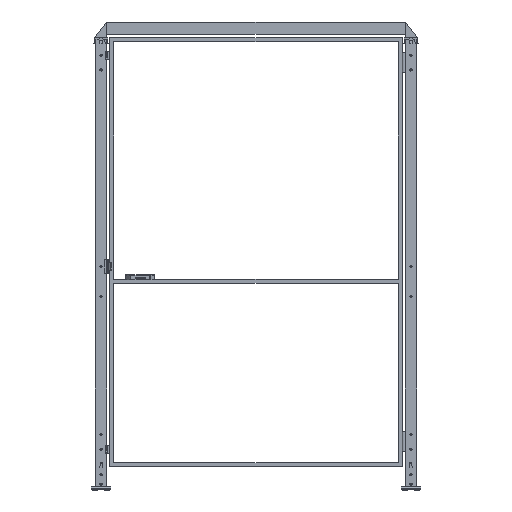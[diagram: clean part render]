
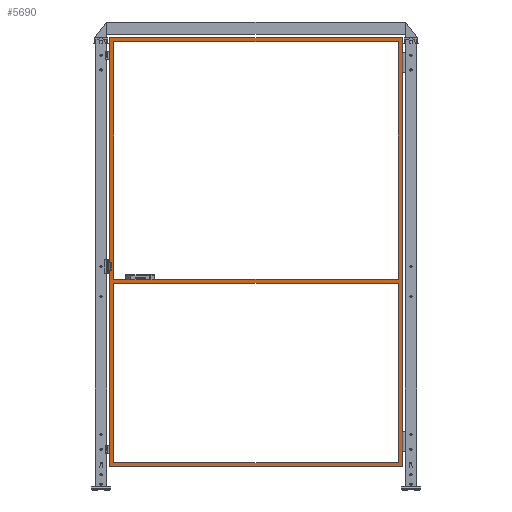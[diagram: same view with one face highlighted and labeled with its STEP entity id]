
A CAD part, top view. The second image highlights one B-rep face of the part: STEP entity #5690.
In plain terms, the highlighted planar face has unit normal (0, 0, 1).
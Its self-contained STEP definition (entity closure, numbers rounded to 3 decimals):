
#5690=ADVANCED_FACE('',(#11648,#11649,#11650),#11651,.F.);
#11648=FACE_BOUND('',#19171,.T.);
#11649=FACE_OUTER_BOUND('',#19172,.T.);
#11650=FACE_BOUND('',#19173,.T.);
#11651=PLANE('',#19174);
#19171=EDGE_LOOP('',(#35965,#35966,#35967,#35968));
#19172=EDGE_LOOP('',(#35969,#35970,#35971,#35972));
#19173=EDGE_LOOP('',(#35973,#35974,#35975,#35976));
#19174=AXIS2_PLACEMENT_3D('',#35977,#35978,#35979);
#35965=ORIENTED_EDGE('',*,*,#42847,.F.);
#35966=ORIENTED_EDGE('',*,*,#42853,.T.);
#35967=ORIENTED_EDGE('',*,*,#42875,.T.);
#35968=ORIENTED_EDGE('',*,*,#42880,.F.);
#35969=ORIENTED_EDGE('',*,*,#42891,.F.);
#35970=ORIENTED_EDGE('',*,*,#42885,.F.);
#35971=ORIENTED_EDGE('',*,*,#42855,.F.);
#35972=ORIENTED_EDGE('',*,*,#42889,.F.);
#35973=ORIENTED_EDGE('',*,*,#42877,.F.);
#35974=ORIENTED_EDGE('',*,*,#42872,.F.);
#35975=ORIENTED_EDGE('',*,*,#42883,.T.);
#35976=ORIENTED_EDGE('',*,*,#42892,.T.);
#35977=CARTESIAN_POINT('',(765.0,130.0,10.0));
#35978=DIRECTION('',(0.,0.0,-1.0));
#35979=DIRECTION('',(-1.0,0.0,0.));
#42847=EDGE_CURVE('',#52941,#52944,#52945,.T.);
#42853=EDGE_CURVE('',#52941,#52952,#52954,.T.);
#42855=EDGE_CURVE('',#52956,#52957,#52958,.T.);
#42872=EDGE_CURVE('',#52984,#52982,#52986,.T.);
#42875=EDGE_CURVE('',#52952,#52988,#52990,.T.);
#42877=EDGE_CURVE('',#52982,#52992,#52993,.T.);
#42880=EDGE_CURVE('',#52944,#52988,#52996,.T.);
#42883=EDGE_CURVE('',#52984,#52998,#53000,.T.);
#42885=EDGE_CURVE('',#52957,#53002,#53003,.T.);
#42889=EDGE_CURVE('',#53006,#52956,#53008,.T.);
#42891=EDGE_CURVE('',#53002,#53006,#53010,.T.);
#42892=EDGE_CURVE('',#52998,#52992,#53011,.T.);
#52941=VERTEX_POINT('',#68243);
#52944=VERTEX_POINT('',#68247);
#52945=LINE('',#68248,#68249);
#52952=VERTEX_POINT('',#68259);
#52954=LINE('',#68262,#68263);
#52956=VERTEX_POINT('',#68265);
#52957=VERTEX_POINT('',#68266);
#52958=LINE('',#68267,#68268);
#52982=VERTEX_POINT('',#68304);
#52984=VERTEX_POINT('',#68307);
#52986=LINE('',#68310,#68311);
#52988=VERTEX_POINT('',#68313);
#52990=LINE('',#68316,#68317);
#52992=VERTEX_POINT('',#68319);
#52993=LINE('',#68320,#68321);
#52996=LINE('',#68325,#68326);
#52998=VERTEX_POINT('',#68328);
#53000=LINE('',#68331,#68332);
#53002=VERTEX_POINT('',#68334);
#53003=LINE('',#68335,#68336);
#53006=VERTEX_POINT('',#68340);
#53008=LINE('',#68343,#68344);
#53010=LINE('',#68346,#68347);
#53011=LINE('',#68348,#68349);
#68243=CARTESIAN_POINT('',(1495.0,2300.0,10.));
#68247=CARTESIAN_POINT('',(35.,2300.0,10.0));
#68248=CARTESIAN_POINT('',(765.0,2300.0,10.0));
#68249=VECTOR('',#75637,1.0);
#68259=CARTESIAN_POINT('',(1495.0,1080.0,10.));
#68262=CARTESIAN_POINT('',(1495.0,1220.0,10.));
#68263=VECTOR('',#75642,1.0);
#68265=CARTESIAN_POINT('',(15.0,120.0,10.0));
#68266=CARTESIAN_POINT('',(15.,2320.0,10.0));
#68267=CARTESIAN_POINT('',(15.0,130.0,10.0));
#68268=VECTOR('',#75643,1.0);
#68304=CARTESIAN_POINT('',(35.,1060.0,10.0));
#68307=CARTESIAN_POINT('',(1495.0,1060.0,10.));
#68310=CARTESIAN_POINT('',(765.0,1060.0,10.0));
#68311=VECTOR('',#75658,1.0);
#68313=CARTESIAN_POINT('',(35.,1080.0,10.0));
#68316=CARTESIAN_POINT('',(765.0,1080.0,10.0));
#68317=VECTOR('',#75660,1.0);
#68319=CARTESIAN_POINT('',(35.0,140.0,10.0));
#68320=CARTESIAN_POINT('',(35.,1220.0,10.0));
#68321=VECTOR('',#75661,1.0);
#68325=CARTESIAN_POINT('',(35.,1220.0,10.0));
#68326=VECTOR('',#75663,1.0);
#68328=CARTESIAN_POINT('',(1495.0,140.0,10.));
#68331=CARTESIAN_POINT('',(1495.0,1220.0,10.));
#68332=VECTOR('',#75665,1.0);
#68334=CARTESIAN_POINT('',(1515.0,2320.0,10.));
#68335=CARTESIAN_POINT('',(25.,2320.0,10.0));
#68336=VECTOR('',#75666,1.0);
#68340=CARTESIAN_POINT('',(1515.0,120.0,10.));
#68343=CARTESIAN_POINT('',(765.0,120.0,10.0));
#68344=VECTOR('',#75669,1.0);
#68346=CARTESIAN_POINT('',(1515.0,1220.0,10.));
#68347=VECTOR('',#75670,1.0);
#68348=CARTESIAN_POINT('',(765.0,140.0,10.0));
#68349=VECTOR('',#75671,1.0);
#75637=DIRECTION('',(-1.0,0.0,0.));
#75642=DIRECTION('',(0.,-1.0,0.));
#75643=DIRECTION('',(0.0,1.0,0.0));
#75658=DIRECTION('',(-1.0,0.0,0.));
#75660=DIRECTION('',(-1.0,0.0,0.));
#75661=DIRECTION('',(0.,-1.0,0.));
#75663=DIRECTION('',(0.,-1.0,0.));
#75665=DIRECTION('',(0.,-1.0,0.));
#75666=DIRECTION('',(1.0,0.,0.));
#75669=DIRECTION('',(-1.0,0.0,0.));
#75670=DIRECTION('',(0.,-1.0,0.));
#75671=DIRECTION('',(-1.0,0.0,0.));
